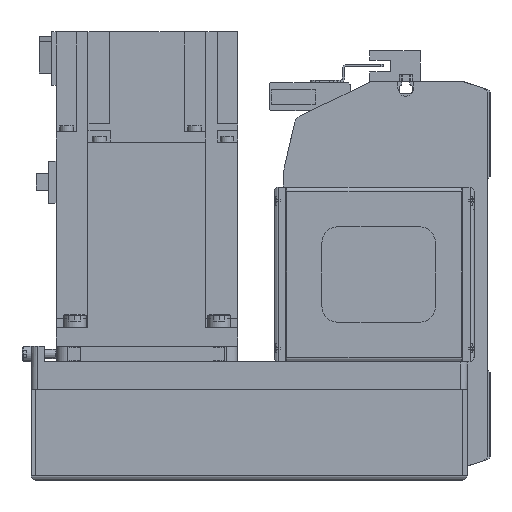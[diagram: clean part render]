
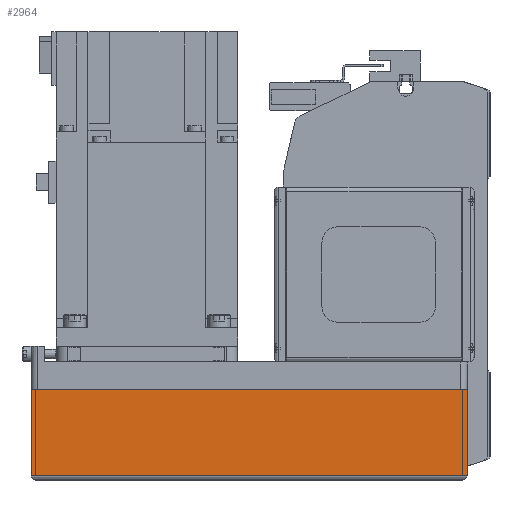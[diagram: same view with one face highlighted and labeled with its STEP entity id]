
A CAD part, left-side view. The second image highlights one B-rep face of the part: STEP entity #2964.
In plain terms, the highlighted planar face has unit normal (-1, 0, 0) as drawn and (0, -1, 0) by its records, which use the part's own axes.
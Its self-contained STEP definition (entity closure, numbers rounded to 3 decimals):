
#2964 = ADVANCED_FACE( '', ( #6340 ), #6341, .T. );
#6340 = FACE_OUTER_BOUND( '', #9958, .T. );
#6341 = PLANE( '', #9959 );
#9958 = EDGE_LOOP( '', ( #18315, #18316, #18317, #18318 ) );
#9959 = AXIS2_PLACEMENT_3D( '', #18319, #18320, #18321 );
#18315 = ORIENTED_EDGE( '', *, *, #20656, .F. );
#18316 = ORIENTED_EDGE( '', *, *, #21626, .F. );
#18317 = ORIENTED_EDGE( '', *, *, #23714, .T. );
#18318 = ORIENTED_EDGE( '', *, *, #21586, .T. );
#18319 = CARTESIAN_POINT( '', ( -192., -40., -12.1 ) );
#18320 = DIRECTION( '', ( 0., -1., 0. ) );
#18321 = DIRECTION( '', ( 0., 0., -1. ) );
#20656 = EDGE_CURVE( '', #24657, #24658, #24659, .T. );
#21586 = EDGE_CURVE( '', #26232, #24658, #26235, .T. );
#21626 = EDGE_CURVE( '', #26297, #24657, #26298, .T. );
#23714 = EDGE_CURVE( '', #26297, #26232, #29242, .T. );
#24657 = VERTEX_POINT( '', #30707 );
#24658 = VERTEX_POINT( '', #30708 );
#24659 = LINE( '', #30709, #30710 );
#26232 = VERTEX_POINT( '', #33037 );
#26235 = LINE( '', #33041, #33042 );
#26297 = VERTEX_POINT( '', #33150 );
#26298 = LINE( '', #33151, #33152 );
#29242 = LINE( '', #37678, #37679 );
#30707 = CARTESIAN_POINT( '', ( 0., -40., -12.1 ) );
#30708 = CARTESIAN_POINT( '', ( 0., -40., -50. ) );
#30709 = CARTESIAN_POINT( '', ( 0., -40., -12.1 ) );
#30710 = VECTOR( '', #38553, 1000. );
#33037 = CARTESIAN_POINT( '', ( -192., -40., -50. ) );
#33041 = CARTESIAN_POINT( '', ( -192., -40., -50. ) );
#33042 = VECTOR( '', #39735, 1000. );
#33150 = CARTESIAN_POINT( '', ( -192., -40., -12.1 ) );
#33151 = CARTESIAN_POINT( '', ( -192., -40., -12.1 ) );
#33152 = VECTOR( '', #39773, 1000. );
#37678 = CARTESIAN_POINT( '', ( -192., -40., -12.1 ) );
#37679 = VECTOR( '', #42231, 1000. );
#38553 = DIRECTION( '', ( 0., 0., -1. ) );
#39735 = DIRECTION( '', ( 1., 0., 0. ) );
#39773 = DIRECTION( '', ( 1., 0., 0. ) );
#42231 = DIRECTION( '', ( 0., 0., -1. ) );
